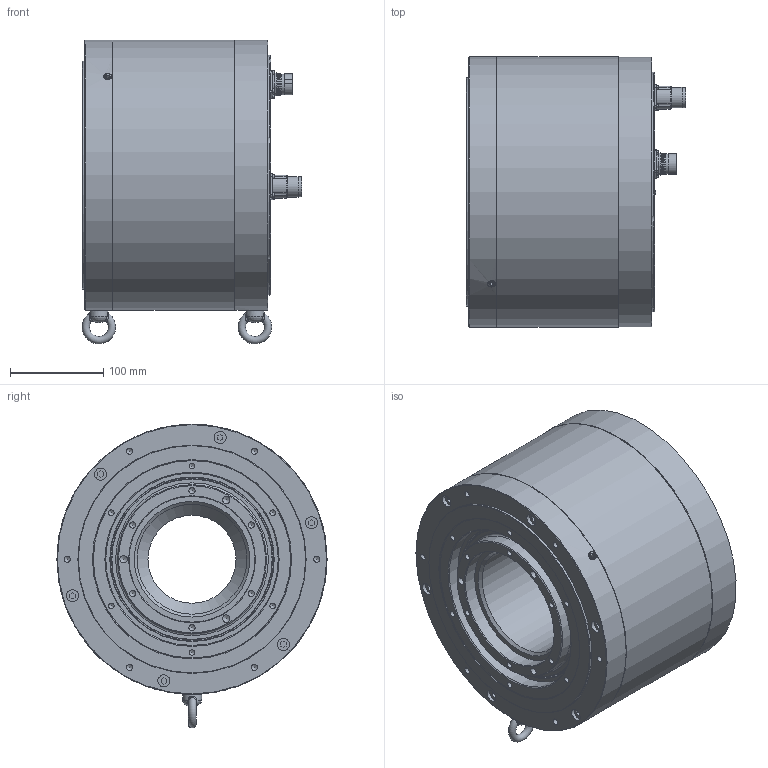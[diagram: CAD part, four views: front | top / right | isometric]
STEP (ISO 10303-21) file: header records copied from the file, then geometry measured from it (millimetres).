
FILE_DESCRIPTION( ( 'Unknown' ), '1' );
FILE_NAME( 'Q:/SKA DDR in acciaio/WEB File/SKA RT 245/3D/245CC071.stp', 'Unknown', ( 'Unknown' ), ( 'Unknown' ), 'PSStep 14.0', 'Unknown', ' ' );
FILE_SCHEMA( ( 'AUTOMOTIVE_DESIGN { 1 0 10303 214 1 1 1 1 }' ) );
Length unit declared in the file: millimetre
Products named in the file (18): Assem1; CN M23 PAN-POT BEGA 120 4 + 4 pin SpTcR; CN M23 PAN-SEG AEGA 139 17 pin SpTcR; 245FF049; 245VV041; 245FF050; 245FP010; Vite a brugola testa cil 8,8 -  M 2,5 x 8; Anello OR 3 D200-oa0; Anello OR 2,62 D240,97-3950-oa1; Anello OR 2,62 D247,32-3975-oa2; Golfare Maschio M8; Vite a brugola testa svasata 10,9 -  M  4 x 16; Vite a brugola testa cil 12,9 -  M  8 x 35; Vite a brugola testa cil 12,9 -  M  6 x 40; Grano senza punta M  6 x 10; 245FS038; 245GG036_90
Assembly tree (39 placements, depth 2):
  Assem1
    CN M23 PAN-POT BEGA 120 4 + 4 pin SpTcR
    CN M23 PAN-SEG AEGA 139 17 pin SpTcR
    245FF049
    245VV041
    245FF050
    245FP010
    Vite a brugola testa cil 8,8 -  M 2,5 x 8  x8
    Anello OR 3 D200-oa0
    Anello OR 2,62 D240,97-3950-oa1
    Anello OR 2,62 D247,32-3975-oa2
    Golfare Maschio M8  x2
    Vite a brugola testa svasata 10,9 -  M  4 x 16  x4
    Vite a brugola testa cil 12,9 -  M  8 x 35  x6
    Vite a brugola testa cil 12,9 -  M  6 x 40  x6
    Grano senza punta M  6 x 10  x2
    245FS038
    245GG036_90
Bounding box: 236 x 290 x 325.96 mm (x, y, z)
Volume: 6668988.4 mm3; surface area: 994258.3 mm2
Topology: 39 solids, 39 shells, 981 faces, 2263 edges, 1473 vertices
Faces by surface type: plane 425, cylinder 356, cone 152, torus 30, sphere 8, bspline 8, revolution 2
Full cylindrical faces by diameter (mm): 1.5 x4, 2 x17, 2.013 x8, 2.5 x12, 2.7 x4, 2.8 x4, 3.242 x12, 3.4 x4, 4 x6, 4.134 x12, 4.5 x4, 4.7 x8, 4.917 x14, 6 x14, 6.5 x6, 6.647 x52, 7 x2, 8 x14, 8.5 x12, 9 x2, 10 x6, 12 x6, 13 x12, 16 x1, 17 x2, 19.8 x2, 20 x4, 21 x2, 21.5 x2, 22 x2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
Entity records: 23243 total; most frequent: CARTESIAN_POINT 4712, DIRECTION 3121, ORIENTED_EDGE 2128, AXIS2_PLACEMENT_3D 1390, EDGE_LOOP 1266, EDGE_CURVE 1064, FACE_OUTER_BOUND 962, VERTEX_POINT 941
